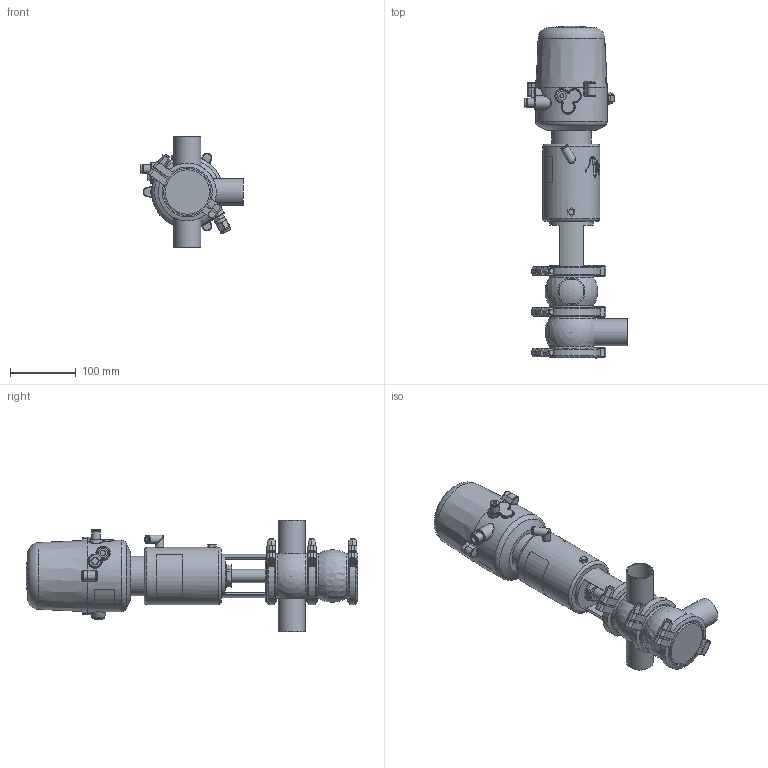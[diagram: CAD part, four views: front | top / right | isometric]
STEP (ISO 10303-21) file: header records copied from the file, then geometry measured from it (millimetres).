
FILE_DESCRIPTION (( 'STEP AP214' ), '1' );
FILE_NAME ('INNOVA M A W DIN 040 T1 AS NC & C-TOP S_10.241.16.0037.STEP', '2024-08-07T07:01:10', ( '' ), ( '' ), 'SwSTEP 2.0', 'SolidWorks 2023', '' );
FILE_SCHEMA (( 'AUTOMOTIVE_DESIGN' ));
Length unit declared in the file: millimetre
Products named in the file (9): 10.240.15.0007_DIN 040; 10.240.15.0010_DN 040; INNOVA M A W DIN 040 T1 AS NC & C-TOP S_10.241.16.0037; 10.240.15.0017_Estàndard; 10.241.15.0001_DIN 040; 10.240.15.0014_T1 AS P180; 10.426.15.0001_C-TOP S - 1 EV; 10.240.15.0001_DN 040; 10.240.15.0006_DIN 040
Assembly tree (10 placements, depth 2):
  INNOVA M A W DIN 040 T1 AS NC & C-TOP S_10.241.16.0037
    10.240.15.0007_DIN 040
    10.240.15.0006_DIN 040
    10.240.15.0010_DN 040
    10.240.15.0014_T1 AS P180
    10.240.15.0017_Estàndard
    10.426.15.0001_C-TOP S - 1 EV
    10.240.15.0001_DN 040  x3
    10.241.15.0001_DIN 040
Bounding box: 156 x 505.07 x 170 mm (x, y, z)
Volume: 2940529.8 mm3; surface area: 316887 mm2
Topology: 11 solids, 11 shells, 1238 faces, 3000 edges, 1993 vertices
Faces by surface type: plane 443, cylinder 379, cone 211, bspline 160, torus 36, sphere 9
Full cylindrical faces by diameter (mm): 0.371 x17, 0.512 x16, 0.658 x16, 0.795 x16, 0.94 x15, 1.098 x15, 1.241 x13, 1.382 x13, 1.523 x11, 1.669 x10, 2.201 x1, 4 x2, 5.5 x2, 6 x2, 6.15 x1, 8 x8, 8.5 x1, 10 x1, 10.5 x1, 11 x2, 12.5 x3, 13 x2, 13.5 x2, 16 x1, 17 x3, 20 x3, 20.5 x1, 22 x2, 31 x1, 34.5 x3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
Entity records: 57007 total; most frequent: CARTESIAN_POINT 26675, ORIENTED_EDGE 4516, DIRECTION 3673, EDGE_CURVE 2258, VERTEX_POINT 1609, EDGE_LOOP 1579, AXIS2_PLACEMENT_3D 1508, FACE_OUTER_BOUND 1339
